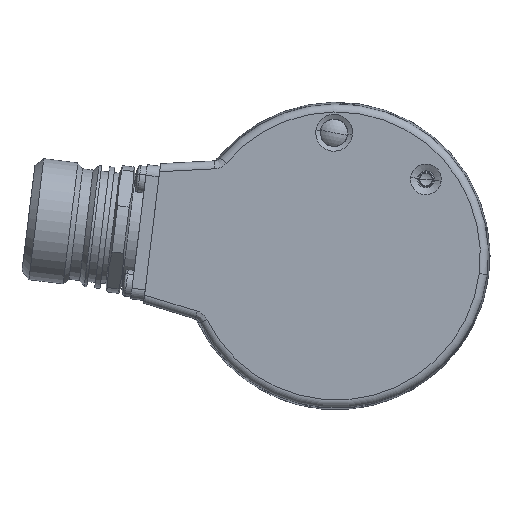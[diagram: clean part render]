
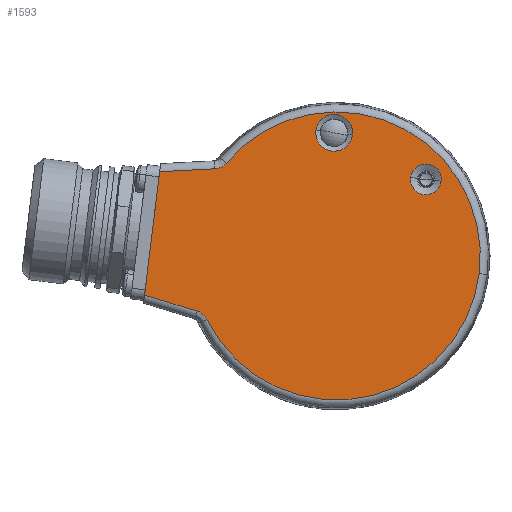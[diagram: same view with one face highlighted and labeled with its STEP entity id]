
A CAD part, left-side view. The second image highlights one B-rep face of the part: STEP entity #1593.
In plain terms, the highlighted planar face has unit normal (-1, 0, 0).
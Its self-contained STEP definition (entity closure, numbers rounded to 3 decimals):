
#1545 = VERTEX_POINT ( 'NONE', #8539 ) ;
#1561 = VERTEX_POINT ( 'NONE', #8501 ) ;
#1562 = VERTEX_POINT ( 'NONE', #8500 ) ;
#1566 = EDGE_CURVE ( 'NONE', #1562, #1561, #8441, .T. ) ;
#1569 = VERTEX_POINT ( 'NONE', #8632 ) ;
#1578 = ORIENTED_EDGE ( 'NONE', *, *, #1566, .T. ) ;
#1579 = ORIENTED_EDGE ( 'NONE', *, *, #1847, .F. ) ;
#1580 = ORIENTED_EDGE ( 'NONE', *, *, #1841, .T. ) ;
#1581 = EDGE_CURVE ( 'NONE', #1811, #1800, #8453, .T. ) ;
#1582 = ORIENTED_EDGE ( 'NONE', *, *, #1852, .T. ) ;
#1583 = ORIENTED_EDGE ( 'NONE', *, *, #1581, .F. ) ;
#1584 = ORIENTED_EDGE ( 'NONE', *, *, #1835, .F. ) ;
#1585 = EDGE_LOOP ( 'NONE', ( #1584, #1586, #1583, #1582, #1579, #1580, #1578 ) ) ;
#1586 = ORIENTED_EDGE ( 'NONE', *, *, #1806, .T. ) ;
#1587 = ORIENTED_EDGE ( 'NONE', *, *, #1738, .T. ) ;
#1588 = ORIENTED_EDGE ( 'NONE', *, *, #1827, .T. ) ;
#1589 = EDGE_LOOP ( 'NONE', ( #1592, #1591 ) ) ;
#1590 = EDGE_LOOP ( 'NONE', ( #1587, #1588 ) ) ;
#1591 = ORIENTED_EDGE ( 'NONE', *, *, #1596, .T. ) ;
#1592 = ORIENTED_EDGE ( 'NONE', *, *, #1673, .T. ) ;
#1593 = ADVANCED_FACE ( 'NONE', ( #8449, #8448, #8447 ), #8620, .F. ) ;
#1596 = EDGE_CURVE ( 'NONE', #1665, #1780, #8619, .T. ) ;
#1665 = VERTEX_POINT ( 'NONE', #8688 ) ;
#1673 = EDGE_CURVE ( 'NONE', #1780, #1665, #8684, .T. ) ;
#1720 = VERTEX_POINT ( 'NONE', #11956 ) ;
#1721 = VERTEX_POINT ( 'NONE', #11955 ) ;
#1738 = EDGE_CURVE ( 'NONE', #1545, #1739, #11988, .T. ) ;
#1739 = VERTEX_POINT ( 'NONE', #11983 ) ;
#1780 = VERTEX_POINT ( 'NONE', #8981 ) ;
#1800 = VERTEX_POINT ( 'NONE', #9079 ) ;
#1806 = EDGE_CURVE ( 'NONE', #1569, #1800, #9162, .T. ) ;
#1811 = VERTEX_POINT ( 'NONE', #9167 ) ;
#1827 = EDGE_CURVE ( 'NONE', #1739, #1545, #9096, .T. ) ;
#1835 = EDGE_CURVE ( 'NONE', #1569, #1561, #9382, .T. ) ;
#1841 = EDGE_CURVE ( 'NONE', #1720, #1562, #9464, .T. ) ;
#1847 = EDGE_CURVE ( 'NONE', #1720, #1721, #9211, .T. ) ;
#1852 = EDGE_CURVE ( 'NONE', #1811, #1721, #9602, .T. ) ;
#8437 = DIRECTION ( 'NONE',  ( 0., -0.993, -0.122 ) ) ;
#8438 = DIRECTION ( 'NONE',  ( -1., 0., 0. ) ) ;
#8439 = CARTESIAN_POINT ( 'NONE',  ( -19., 0., 0. ) ) ;
#8440 = AXIS2_PLACEMENT_3D ( 'NONE', #8439, #8438, #8437 ) ;
#8441 = CIRCLE ( 'NONE', #8440, 27.173 ) ;
#8447 = FACE_OUTER_BOUND ( 'NONE', #1585, .T. ) ;
#8448 = FACE_BOUND ( 'NONE', #1590, .T. ) ;
#8449 = FACE_BOUND ( 'NONE', #1589, .T. ) ;
#8450 = DIRECTION ( 'NONE',  ( 0., -0.122, 0.993 ) ) ;
#8451 = VECTOR ( 'NONE', #8450, 1000. ) ;
#8452 = CARTESIAN_POINT ( 'NONE',  ( -19., 36.354, -8.886 ) ) ;
#8453 = LINE ( 'NONE', #8452, #8451 ) ;
#8500 = CARTESIAN_POINT ( 'NONE',  ( -19., -26.97, -3.312 ) ) ;
#8501 = CARTESIAN_POINT ( 'NONE',  ( -19., 20.777, 17.512 ) ) ;
#8539 = CARTESIAN_POINT ( 'NONE',  ( -19., 3.846, 23.669 ) ) ;
#8610 = DIRECTION ( 'NONE',  ( 0., -0.993, -0.122 ) ) ;
#8611 = DIRECTION ( 'NONE',  ( 1., 0., 0. ) ) ;
#8612 = CARTESIAN_POINT ( 'NONE',  ( -19., -16.919, 14.45 ) ) ;
#8613 = AXIS2_PLACEMENT_3D ( 'NONE', #8612, #8611, #8610 ) ;
#8615 = DIRECTION ( 'NONE',  ( 0., -0.993, -0.122 ) ) ;
#8616 = DIRECTION ( 'NONE',  ( 1., 0., 0. ) ) ;
#8617 = CARTESIAN_POINT ( 'NONE',  ( -19., 0., 0. ) ) ;
#8618 = AXIS2_PLACEMENT_3D ( 'NONE', #8617, #8616, #8615 ) ;
#8619 = CIRCLE ( 'NONE', #8613, 2.899 ) ;
#8620 = PLANE ( 'NONE',  #8618 ) ;
#8632 = CARTESIAN_POINT ( 'NONE',  ( -19., 22.914, 16.45 ) ) ;
#8680 = DIRECTION ( 'NONE',  ( 0., -0.993, -0.122 ) ) ;
#8681 = DIRECTION ( 'NONE',  ( 1., 0., 0. ) ) ;
#8682 = CARTESIAN_POINT ( 'NONE',  ( -19., -16.919, 14.45 ) ) ;
#8683 = AXIS2_PLACEMENT_3D ( 'NONE', #8682, #8681, #8680 ) ;
#8684 = CIRCLE ( 'NONE', #8683, 2.899 ) ;
#8688 = CARTESIAN_POINT ( 'NONE',  ( -19., -19.796, 14.097 ) ) ;
#8981 = CARTESIAN_POINT ( 'NONE',  ( -19., -14.042, 14.804 ) ) ;
#9079 = CARTESIAN_POINT ( 'NONE',  ( -19., 33.31, 15.905 ) ) ;
#9092 = DIRECTION ( 'NONE',  ( 0., -0.993, -0.122 ) ) ;
#9093 = DIRECTION ( 'NONE',  ( 1., 0., 0. ) ) ;
#9094 = CARTESIAN_POINT ( 'NONE',  ( -19., 0.406, 23.246 ) ) ;
#9095 = AXIS2_PLACEMENT_3D ( 'NONE', #9094, #9093, #9092 ) ;
#9096 = CIRCLE ( 'NONE', #9095, 3.466 ) ;
#9159 = DIRECTION ( 'NONE',  ( 0., 0.999, -0.052 ) ) ;
#9160 = VECTOR ( 'NONE', #9159, 1000. ) ;
#9161 = CARTESIAN_POINT ( 'NONE',  ( -19., 33.046, 15.919 ) ) ;
#9162 = LINE ( 'NONE', #9161, #9160 ) ;
#9167 = CARTESIAN_POINT ( 'NONE',  ( -19., 36.168, -7.374 ) ) ;
#9201 = CARTESIAN_POINT ( 'NONE',  ( -19., 24.487, -11.781 ) ) ;
#9202 = CARTESIAN_POINT ( 'NONE',  ( -19., 24.396, -11.966 ) ) ;
#9211 = B_SPLINE_CURVE_WITH_KNOTS ( 'NONE', 3,
 ( #9202, #9201, #9256, #9255, #9254, #9253, #9252, #9251, #9250, #9249 ),
 .UNSPECIFIED., .F., .F.,
 ( 4, 2, 2, 2, 4 ),
 ( 0., 0.001, 0.001, 0.002, 0.002 ),
 .UNSPECIFIED. ) ;
#9249 = CARTESIAN_POINT ( 'NONE',  ( -19., 26.213, -10.418 ) ) ;
#9250 = CARTESIAN_POINT ( 'NONE',  ( -19., 26.016, -10.478 ) ) ;
#9251 = CARTESIAN_POINT ( 'NONE',  ( -19., 25.828, -10.557 ) ) ;
#9252 = CARTESIAN_POINT ( 'NONE',  ( -19., 25.471, -10.753 ) ) ;
#9253 = CARTESIAN_POINT ( 'NONE',  ( -19., 25.3, -10.87 ) ) ;
#9254 = CARTESIAN_POINT ( 'NONE',  ( -19., 24.989, -11.135 ) ) ;
#9255 = CARTESIAN_POINT ( 'NONE',  ( -19., 24.848, -11.282 ) ) ;
#9256 = CARTESIAN_POINT ( 'NONE',  ( -19., 24.597, -11.605 ) ) ;
#9367 = CARTESIAN_POINT ( 'NONE',  ( -19., 20.777, 17.512 ) ) ;
#9368 = CARTESIAN_POINT ( 'NONE',  ( -19., 20.91, 17.355 ) ) ;
#9369 = CARTESIAN_POINT ( 'NONE',  ( -19., 21.056, 17.213 ) ) ;
#9370 = CARTESIAN_POINT ( 'NONE',  ( -19., 21.376, 16.962 ) ) ;
#9371 = CARTESIAN_POINT ( 'NONE',  ( -19., 21.552, 16.851 ) ) ;
#9372 = CARTESIAN_POINT ( 'NONE',  ( -19., 21.917, 16.669 ) ) ;
#9373 = CARTESIAN_POINT ( 'NONE',  ( -19., 22.108, 16.597 ) ) ;
#9374 = CARTESIAN_POINT ( 'NONE',  ( -19., 22.503, 16.493 ) ) ;
#9375 = CARTESIAN_POINT ( 'NONE',  ( -19., 22.708, 16.461 ) ) ;
#9376 = CARTESIAN_POINT ( 'NONE',  ( -19., 22.914, 16.45 ) ) ;
#9381 = CARTESIAN_POINT ( 'NONE',  ( -19., 0., 0. ) ) ;
#9382 = B_SPLINE_CURVE_WITH_KNOTS ( 'NONE', 3,
 ( #9376, #9375, #9374, #9373, #9372, #9371, #9370, #9369, #9368, #9367 ),
 .UNSPECIFIED., .F., .F.,
 ( 4, 2, 2, 2, 4 ),
 ( 0., 0.001, 0.001, 0.002, 0.002 ),
 .UNSPECIFIED. ) ;
#9461 = DIRECTION ( 'NONE',  ( 0., -0.993, -0.122 ) ) ;
#9462 = DIRECTION ( 'NONE',  ( -1., 0., 0. ) ) ;
#9463 = AXIS2_PLACEMENT_3D ( 'NONE', #9381, #9462, #9461 ) ;
#9464 = CIRCLE ( 'NONE', #9463, 27.173 ) ;
#9599 = DIRECTION ( 'NONE',  ( 0., -0.956, -0.292 ) ) ;
#9600 = VECTOR ( 'NONE', #9599, 1000. ) ;
#9601 = CARTESIAN_POINT ( 'NONE',  ( -19., 25.556, -10.618 ) ) ;
#9602 = LINE ( 'NONE', #9601, #9600 ) ;
#11955 = CARTESIAN_POINT ( 'NONE',  ( -19., 26.213, -10.418 ) ) ;
#11956 = CARTESIAN_POINT ( 'NONE',  ( -19., 24.396, -11.966 ) ) ;
#11983 = CARTESIAN_POINT ( 'NONE',  ( -19., -3.034, 22.824 ) ) ;
#11984 = DIRECTION ( 'NONE',  ( 0., -0.993, -0.122 ) ) ;
#11985 = DIRECTION ( 'NONE',  ( 1., 0., 0. ) ) ;
#11986 = CARTESIAN_POINT ( 'NONE',  ( -19., 0.406, 23.246 ) ) ;
#11987 = AXIS2_PLACEMENT_3D ( 'NONE', #11986, #11985, #11984 ) ;
#11988 = CIRCLE ( 'NONE', #11987, 3.466 ) ;
